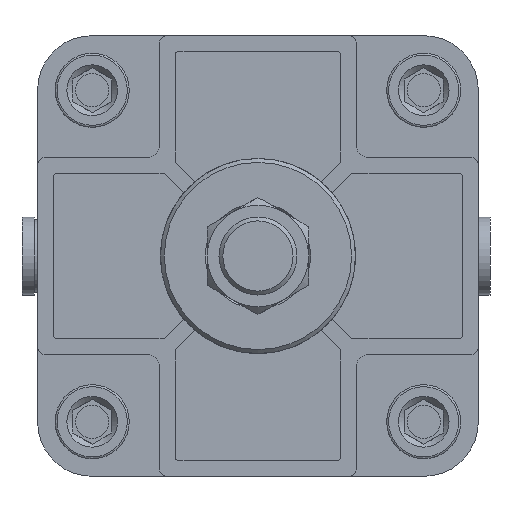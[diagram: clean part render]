
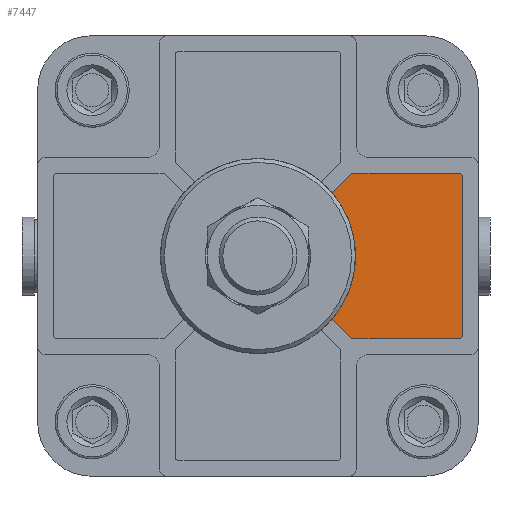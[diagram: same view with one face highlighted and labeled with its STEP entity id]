
A CAD part, front view. The second image highlights one B-rep face of the part: STEP entity #7447.
In plain terms, the highlighted planar face has unit normal (0, -1, 0).
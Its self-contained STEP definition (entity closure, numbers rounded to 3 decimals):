
#267=LINE('',#10342,#759);
#268=LINE('',#10347,#760);
#269=LINE('',#10349,#761);
#270=LINE('',#10353,#762);
#271=LINE('',#10355,#763);
#759=VECTOR('',#8535,1000.);
#760=VECTOR('',#8538,1000.);
#761=VECTOR('',#8539,1000.);
#762=VECTOR('',#8542,1000.);
#763=VECTOR('',#8543,1000.);
#1264=ORIENTED_EDGE('',*,*,#2875,.F.);
#1265=ORIENTED_EDGE('',*,*,#2876,.T.);
#1266=ORIENTED_EDGE('',*,*,#2877,.F.);
#1267=ORIENTED_EDGE('',*,*,#2878,.F.);
#1268=ORIENTED_EDGE('',*,*,#2879,.F.);
#1269=ORIENTED_EDGE('',*,*,#2880,.F.);
#1270=ORIENTED_EDGE('',*,*,#2881,.F.);
#1271=ORIENTED_EDGE('',*,*,#2882,.T.);
#2875=EDGE_CURVE('',#3683,#3684,#267,.T.);
#2876=EDGE_CURVE('',#3683,#3685,#4249,.F.);
#2877=EDGE_CURVE('',#3686,#3685,#268,.T.);
#2878=EDGE_CURVE('',#3687,#3686,#269,.T.);
#2879=EDGE_CURVE('',#3688,#3687,#4250,.F.);
#2880=EDGE_CURVE('',#3689,#3688,#270,.T.);
#2881=EDGE_CURVE('',#3690,#3689,#271,.T.);
#2882=EDGE_CURVE('',#3690,#3684,#4251,.F.);
#3683=VERTEX_POINT('',#10343);
#3684=VERTEX_POINT('',#10344);
#3685=VERTEX_POINT('',#10346);
#3686=VERTEX_POINT('',#10348);
#3687=VERTEX_POINT('',#10350);
#3688=VERTEX_POINT('',#10352);
#3689=VERTEX_POINT('',#10354);
#3690=VERTEX_POINT('',#10356);
#4249=CIRCLE('',#7852,1.);
#4250=CIRCLE('',#7853,25.);
#4251=CIRCLE('',#7854,1.);
#4541=EDGE_LOOP('',(#1264,#1265,#1266,#1267,#1268,#1269,#1270,#1271));
#5047=FACE_BOUND('',#4541,.T.);
#5543=PLANE('',#7851);
#7447=ADVANCED_FACE('',(#5047),#5543,.F.);
#7851=AXIS2_PLACEMENT_3D('',#10341,#8533,#8534);
#7852=AXIS2_PLACEMENT_3D('',#10345,#8536,#8537);
#7853=AXIS2_PLACEMENT_3D('',#10351,#8540,#8541);
#7854=AXIS2_PLACEMENT_3D('',#10357,#8544,#8545);
#8533=DIRECTION('',(0.,1.,0.));
#8534=DIRECTION('',(0.,0.,1.));
#8535=DIRECTION('',(0.,0.,-1.));
#8536=DIRECTION('',(0.,1.,0.));
#8537=DIRECTION('',(0.,0.,1.));
#8538=DIRECTION('',(1.,0.,0.));
#8539=DIRECTION('',(0.707,0.,0.707));
#8540=DIRECTION('',(0.,1.,0.));
#8541=DIRECTION('',(0.,0.,1.));
#8542=DIRECTION('',(-0.707,0.,0.707));
#8543=DIRECTION('',(-1.,0.,0.));
#8544=DIRECTION('',(0.,1.,0.));
#8545=DIRECTION('',(0.,0.,1.));
#10341=CARTESIAN_POINT('',(0.,-27.5,0.));
#10342=CARTESIAN_POINT('',(52.5,-27.5,-21.25));
#10343=CARTESIAN_POINT('',(52.5,-27.5,20.25));
#10344=CARTESIAN_POINT('',(52.5,-27.5,-20.25));
#10345=CARTESIAN_POINT('',(51.5,-27.5,20.25));
#10346=CARTESIAN_POINT('',(51.5,-27.5,21.25));
#10347=CARTESIAN_POINT('',(52.5,-27.5,21.25));
#10348=CARTESIAN_POINT('',(24.078,-27.5,21.25));
#10349=CARTESIAN_POINT('',(18.681,-27.5,15.852));
#10350=CARTESIAN_POINT('',(19.035,-27.5,16.207));
#10351=CARTESIAN_POINT('',(0.,-27.5,0.));
#10352=CARTESIAN_POINT('',(19.035,-27.5,-16.207));
#10353=CARTESIAN_POINT('',(18.681,-27.5,-15.852));
#10354=CARTESIAN_POINT('',(24.078,-27.5,-21.25));
#10355=CARTESIAN_POINT('',(25.25,-27.5,-21.25));
#10356=CARTESIAN_POINT('',(51.5,-27.5,-21.25));
#10357=CARTESIAN_POINT('',(51.5,-27.5,-20.25));
